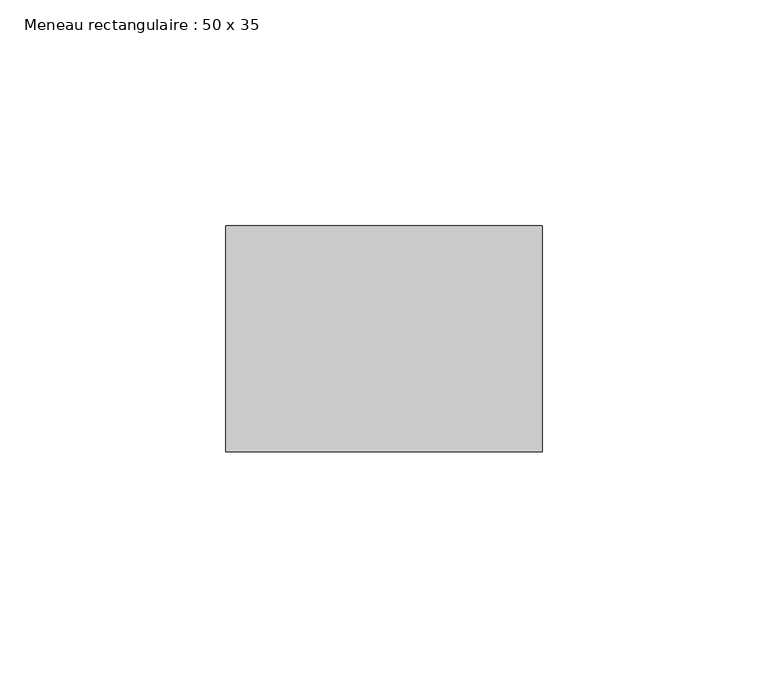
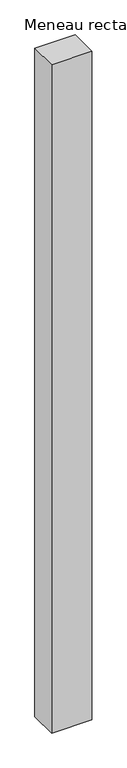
"""IFC4 building model written with IfcOpenShell, lengths in millimetres: member geometry, Meneau rectangulaire : 50 x 35."""

from ifc_helpers import new_model, si_unit, frame, origin, place, context, project, spatial, polyline, outline, extrude, source, transform, mapped, element, save


def meneau_rectangulaire_50_x_35_b1ee210a(model_context):
    return source(origin(), model_context, "Body", "SweptSolid", [
        extrude(outline(polyline([(0.0, 0.0), (0.0, -50.0), (-70.0, -50.0), (-70.0, 0.0), (0.0, 0.0)])), frame((0.0, 0.0, -1225.8847057), z_axis=(0.0, 0.0, 1.0), x_axis=(1.0, 0.0, 0.0)), (0.0, 0.0, 1.0), 1225.8847057),
    ])


if __name__ == "__main__":
    model = new_model("IFC4")
    model_context = context("Model", 3, world=origin())
    ifc_project = project(units=[si_unit("LENGTHUNIT", "METRE", prefix="MILLI")], contexts=[model_context])
    site = spatial("IfcSite", under=ifc_project)
    building = spatial("IfcBuilding", under=site)
    placement = place(None, origin())
    meneau_rectangulaire_50_x_35_shape = meneau_rectangulaire_50_x_35_b1ee210a(model_context)
    element("IfcMember", 1, ObjectType="Meneau rectangulaire : 50 x 35", at=placement, inside=building, context=model_context, shape_type="MappedRepresentation", body=[
        mapped(meneau_rectangulaire_50_x_35_shape, transform((0.0, 0.0, 0.0), x_axis=(1.0, 0.0, 0.0), y_axis=(0.0, 1.0, 0.0), z_axis=(0.0, 0.0, 1.0))),
    ])
    save(model, "model.ifc")
